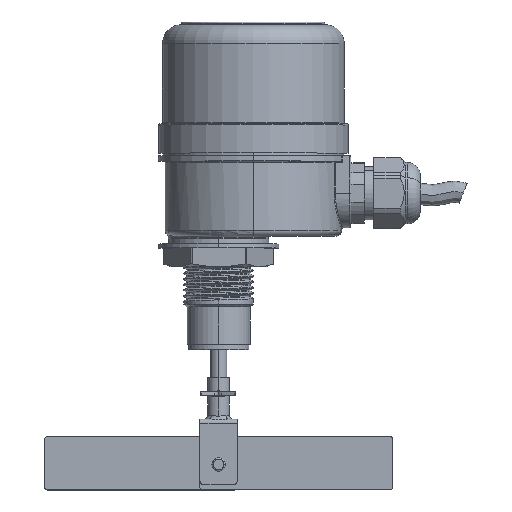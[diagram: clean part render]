
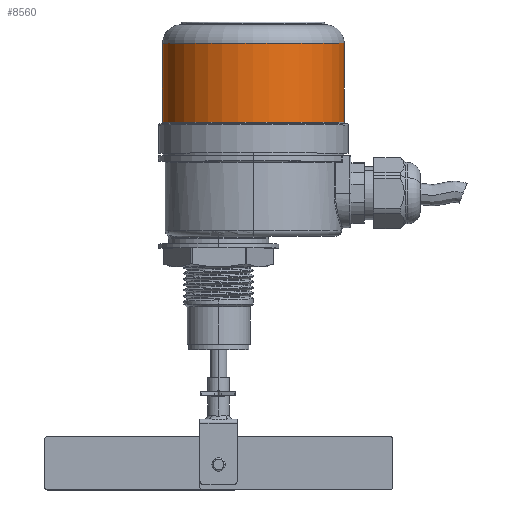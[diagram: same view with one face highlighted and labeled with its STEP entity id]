
A CAD part, top view. The second image highlights one B-rep face of the part: STEP entity #8560.
In plain terms, the highlighted cylindrical face has radius 34 mm (diameter 68 mm), a partial arc.
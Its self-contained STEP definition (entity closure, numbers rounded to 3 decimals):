
#207 = EDGE_CURVE ( 'NONE', #5440, #14448, #7786, .T. ) ;
#557 = ORIENTED_EDGE ( 'NONE', *, *, #12112, .T. ) ;
#1293 = VERTEX_POINT ( 'NONE', #15551 ) ;
#2110 = DIRECTION ( 'NONE',  ( 1., 0., 0. ) ) ;
#2233 = VECTOR ( 'NONE', #4264, 1000. ) ;
#3249 = DIRECTION ( 'NONE',  ( -1., 0., 0. ) ) ;
#3857 = ORIENTED_EDGE ( 'NONE', *, *, #207, .T. ) ;
#3963 = CARTESIAN_POINT ( 'NONE',  ( -40.708, 0., 34. ) ) ;
#4218 = CIRCLE ( 'NONE', #6264, 34. ) ;
#4264 = DIRECTION ( 'NONE',  ( -1., 0., 0. ) ) ;
#4441 = FACE_OUTER_BOUND ( 'NONE', #15222, .T. ) ;
#4735 = DIRECTION ( 'NONE',  ( -1., 0., 0. ) ) ;
#4994 = EDGE_CURVE ( 'NONE', #8995, #14448, #14896, .T. ) ;
#5440 = VERTEX_POINT ( 'NONE', #13169 ) ;
#5834 = AXIS2_PLACEMENT_3D ( 'NONE', #14182, #3249, #8122 ) ;
#6264 = AXIS2_PLACEMENT_3D ( 'NONE', #15669, #4735, #9599 ) ;
#6760 = EDGE_CURVE ( 'NONE', #1293, #5440, #10314, .T. ) ;
#6789 = VECTOR ( 'NONE', #8824, 1000. ) ;
#6987 = DIRECTION ( 'NONE',  ( 0., 0., 1. ) ) ;
#6989 = ORIENTED_EDGE ( 'NONE', *, *, #4994, .F. ) ;
#7786 = CIRCLE ( 'NONE', #11870, 34. ) ;
#8122 = DIRECTION ( 'NONE',  ( 0., 0., 1. ) ) ;
#8560 = ADVANCED_FACE ( 'NONE', ( #4441 ), #9295, .T. ) ;
#8824 = DIRECTION ( 'NONE',  ( -1., 0., 0. ) ) ;
#8995 = VERTEX_POINT ( 'NONE', #10524 ) ;
#9295 = CYLINDRICAL_SURFACE ( 'NONE', #5834, 34. ) ;
#9599 = DIRECTION ( 'NONE',  ( 0., 0., 1. ) ) ;
#10314 = LINE ( 'NONE', #15198, #2233 ) ;
#10524 = CARTESIAN_POINT ( 'NONE',  ( 41., 0., 34. ) ) ;
#11870 = AXIS2_PLACEMENT_3D ( 'NONE', #13053, #2110, #6987 ) ;
#12112 = EDGE_CURVE ( 'NONE', #8995, #1293, #4218, .T. ) ;
#12763 = CARTESIAN_POINT ( 'NONE',  ( 11.5, 0., 34. ) ) ;
#13053 = CARTESIAN_POINT ( 'NONE',  ( 11.5, 0., 0. ) ) ;
#13169 = CARTESIAN_POINT ( 'NONE',  ( 11.5, 0., -34. ) ) ;
#14182 = CARTESIAN_POINT ( 'NONE',  ( -40.708, 0., 0. ) ) ;
#14194 = ORIENTED_EDGE ( 'NONE', *, *, #6760, .T. ) ;
#14448 = VERTEX_POINT ( 'NONE', #12763 ) ;
#14896 = LINE ( 'NONE', #3963, #6789 ) ;
#15198 = CARTESIAN_POINT ( 'NONE',  ( -40.708, 0., -34. ) ) ;
#15222 = EDGE_LOOP ( 'NONE', ( #557, #14194, #3857, #6989 ) ) ;
#15551 = CARTESIAN_POINT ( 'NONE',  ( 41., 0., -34. ) ) ;
#15669 = CARTESIAN_POINT ( 'NONE',  ( 41., 0., 0. ) ) ;
